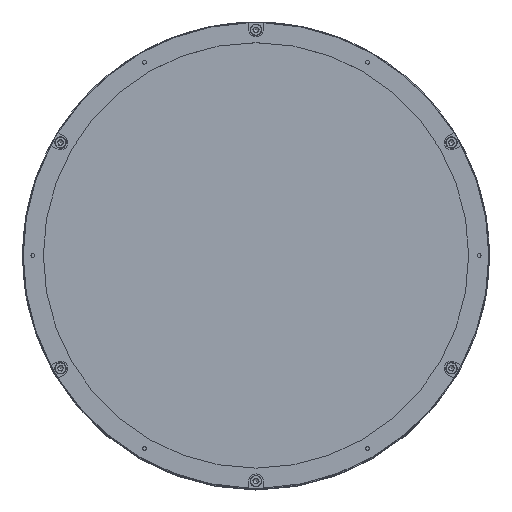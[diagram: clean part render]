
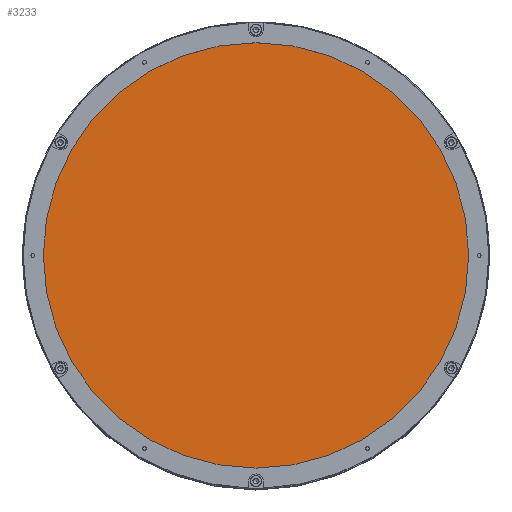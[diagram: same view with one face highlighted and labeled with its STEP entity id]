
A CAD part, top view. The second image highlights one B-rep face of the part: STEP entity #3233.
In plain terms, the highlighted planar face has unit normal (0, 0, 1).
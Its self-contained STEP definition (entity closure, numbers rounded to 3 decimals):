
#115 = EDGE_LOOP ( 'NONE', ( #8724 ) ) ;
#502 = AXIS2_PLACEMENT_3D ( 'NONE', #6883, #2712, #7638 ) ;
#763 = FACE_OUTER_BOUND ( 'NONE', #115, .T. ) ;
#1972 = DIRECTION ( 'NONE',  ( 0., 1., 0. ) ) ;
#2712 = DIRECTION ( 'NONE',  ( 0., 0., -1. ) ) ;
#3233 = ADVANCED_FACE ( 'NONE', ( #763 ), #5383, .F. ) ;
#3267 = CARTESIAN_POINT ( 'NONE',  ( 0., 83.154, 367.164 ) ) ;
#3302 = CARTESIAN_POINT ( 'NONE',  ( 0., 82., 367.164 ) ) ;
#3966 = VERTEX_POINT ( 'NONE', #3302 ) ;
#4023 = AXIS2_PLACEMENT_3D ( 'NONE', #3267, #6053, #1972 ) ;
#5383 = PLANE ( 'NONE',  #4023 ) ;
#6053 = DIRECTION ( 'NONE',  ( 0., 0., -1. ) ) ;
#6265 = CIRCLE ( 'NONE', #502, 82. ) ;
#6883 = CARTESIAN_POINT ( 'NONE',  ( 0., 0., 367.164 ) ) ;
#7638 = DIRECTION ( 'NONE',  ( 0., 1., 0. ) ) ;
#8228 = EDGE_CURVE ( 'NONE', #3966, #3966, #6265, .T. ) ;
#8724 = ORIENTED_EDGE ( 'NONE', *, *, #8228, .F. ) ;
